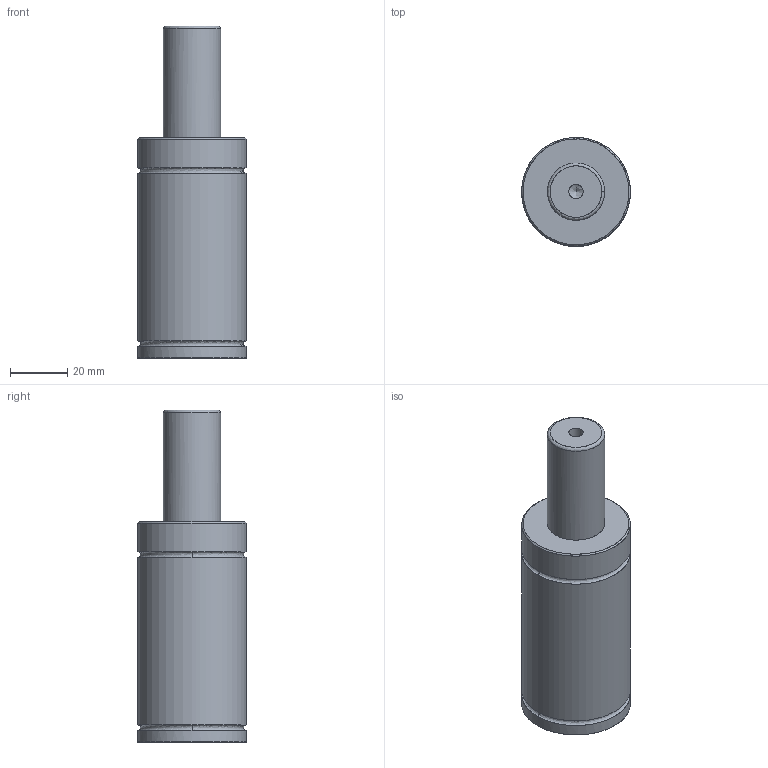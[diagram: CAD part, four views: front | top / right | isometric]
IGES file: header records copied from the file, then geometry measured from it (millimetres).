
Start section: VISI Layer Mapping Iges    VISI  0      LAYER_EMPTY  1      wwww  7      W_PD700  8      S_PD700  10     W_PD1000  11     S_PD1000  13     W_PD2000  14     S_PD2000  16     W_PD3000  17     S_PD3000  19     W_PD4000  20     S_PD4000  22     W_PD7000  23     S_PD7000  28     W_350  29     MS-350  30     MC-350  31     MP-350  32     MB-350  33     MH-350  34     MK-350  35     MPL-350  39     W_500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
Global section: file name: E:\だ錶臢\だ錶臢3D\SYLINDER\PT Series\PT500\PT500\PT500-38.igs; native system: VISI 16.0; preprocessor: 2.0; author: 11; organization: 0; date: 500.; units: mil
Bounding box: 38 x 38 x 116 mm (x, y, z)
Surface area: 14963.7 mm2 (no closed solid volume)
Topology: 0 solids, 0 shells, 19 faces, 221 edges, 196 vertices
Faces by surface type: bspline 19
